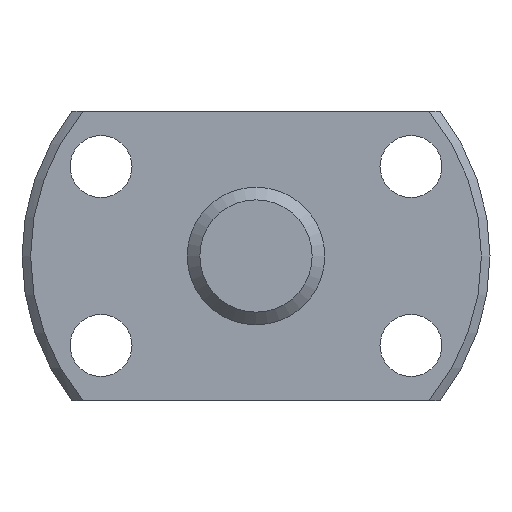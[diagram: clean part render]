
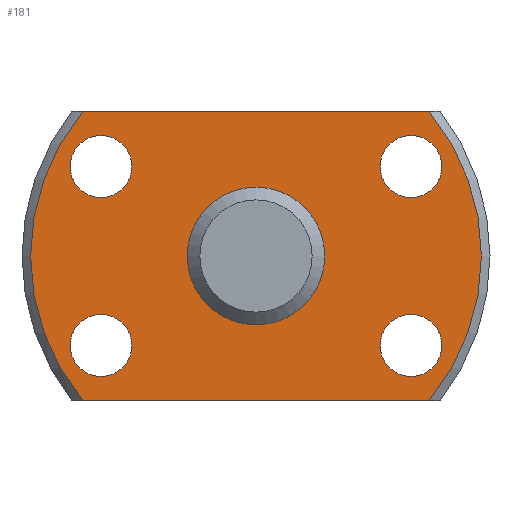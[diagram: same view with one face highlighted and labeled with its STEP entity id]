
A CAD part, left-side view. The second image highlights one B-rep face of the part: STEP entity #181.
In plain terms, the highlighted planar face has unit normal (-1, 0, 0).
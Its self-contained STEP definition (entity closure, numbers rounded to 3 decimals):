
#181 = ADVANCED_FACE( '', ( #229, #230, #231, #232, #233, #234 ), #235, .T. );
#229 = FACE_BOUND( '', #303, .T. );
#230 = FACE_OUTER_BOUND( '', #304, .T. );
#231 = FACE_BOUND( '', #305, .T. );
#232 = FACE_BOUND( '', #306, .T. );
#233 = FACE_BOUND( '', #307, .T. );
#234 = FACE_BOUND( '', #308, .T. );
#235 = PLANE( '', #309 );
#303 = EDGE_LOOP( '', ( #422 ) );
#304 = EDGE_LOOP( '', ( #423, #424, #425, #426 ) );
#305 = EDGE_LOOP( '', ( #427 ) );
#306 = EDGE_LOOP( '', ( #428 ) );
#307 = EDGE_LOOP( '', ( #429 ) );
#308 = EDGE_LOOP( '', ( #430 ) );
#309 = AXIS2_PLACEMENT_3D( '', #431, #432, #433 );
#422 = ORIENTED_EDGE( '', *, *, #534, .T. );
#423 = ORIENTED_EDGE( '', *, *, #535, .F. );
#424 = ORIENTED_EDGE( '', *, *, #536, .F. );
#425 = ORIENTED_EDGE( '', *, *, #511, .F. );
#426 = ORIENTED_EDGE( '', *, *, #532, .F. );
#427 = ORIENTED_EDGE( '', *, *, #537, .T. );
#428 = ORIENTED_EDGE( '', *, *, #538, .T. );
#429 = ORIENTED_EDGE( '', *, *, #539, .T. );
#430 = ORIENTED_EDGE( '', *, *, #540, .T. );
#431 = CARTESIAN_POINT( '', ( 0., 16.375, 0. ) );
#432 = DIRECTION( '', ( -1., 0., 0. ) );
#433 = DIRECTION( '', ( 0., 0., 1. ) );
#511 = EDGE_CURVE( '', #560, #562, #563, .T. );
#532 = EDGE_CURVE( '', #597, #560, #600, .T. );
#534 = EDGE_CURVE( '', #602, #602, #603, .T. );
#535 = EDGE_CURVE( '', #604, #597, #605, .T. );
#536 = EDGE_CURVE( '', #562, #604, #606, .T. );
#537 = EDGE_CURVE( '', #607, #607, #608, .T. );
#538 = EDGE_CURVE( '', #609, #609, #610, .T. );
#539 = EDGE_CURVE( '', #611, #611, #612, .T. );
#540 = EDGE_CURVE( '', #613, #613, #614, .T. );
#560 = VERTEX_POINT( '', #642 );
#562 = VERTEX_POINT( '', #647 );
#563 = LINE( '', #648, #649 );
#597 = VERTEX_POINT( '', #699 );
#600 = CIRCLE( '', #705, 16.375 );
#602 = VERTEX_POINT( '', #707 );
#603 = CIRCLE( '', #708, 5. );
#604 = VERTEX_POINT( '', #709 );
#605 = LINE( '', #710, #711 );
#606 = CIRCLE( '', #712, 16.375 );
#607 = VERTEX_POINT( '', #713 );
#608 = CIRCLE( '', #714, 2.25 );
#609 = VERTEX_POINT( '', #715 );
#610 = CIRCLE( '', #716, 2.25 );
#611 = VERTEX_POINT( '', #717 );
#612 = CIRCLE( '', #718, 2.25 );
#613 = VERTEX_POINT( '', #719 );
#614 = CIRCLE( '', #720, 2.25 );
#642 = CARTESIAN_POINT( '', ( 0., -12.565, -10.5 ) );
#647 = CARTESIAN_POINT( '', ( 0., 12.565, -10.5 ) );
#648 = CARTESIAN_POINT( '', ( 0., -17., -10.5 ) );
#649 = VECTOR( '', #748, 1000. );
#699 = CARTESIAN_POINT( '', ( 0., -12.565, 10.5 ) );
#705 = AXIS2_PLACEMENT_3D( '', #786, #787, #788 );
#707 = CARTESIAN_POINT( '', ( 0., 0., -5. ) );
#708 = AXIS2_PLACEMENT_3D( '', #792, #793, #794 );
#709 = CARTESIAN_POINT( '', ( 0., 12.565, 10.5 ) );
#710 = CARTESIAN_POINT( '', ( 0., 17., 10.5 ) );
#711 = VECTOR( '', #795, 1000. );
#712 = AXIS2_PLACEMENT_3D( '', #796, #797, #798 );
#713 = CARTESIAN_POINT( '', ( 0., 11.258, 4.25 ) );
#714 = AXIS2_PLACEMENT_3D( '', #799, #800, #801 );
#715 = CARTESIAN_POINT( '', ( 0., -11.258, 4.25 ) );
#716 = AXIS2_PLACEMENT_3D( '', #802, #803, #804 );
#717 = CARTESIAN_POINT( '', ( 0., -11.258, -8.75 ) );
#718 = AXIS2_PLACEMENT_3D( '', #805, #806, #807 );
#719 = CARTESIAN_POINT( '', ( 0., 11.258, -8.75 ) );
#720 = AXIS2_PLACEMENT_3D( '', #808, #809, #810 );
#748 = DIRECTION( '', ( 0., 1., 0. ) );
#786 = CARTESIAN_POINT( '', ( 0., 0., 0. ) );
#787 = DIRECTION( '', ( 1., 0., 0. ) );
#788 = DIRECTION( '', ( 0., 0., -1. ) );
#792 = CARTESIAN_POINT( '', ( 0., 0., 0. ) );
#793 = DIRECTION( '', ( 1., 0., 0. ) );
#794 = DIRECTION( '', ( 0., 0., -1. ) );
#795 = DIRECTION( '', ( 0., -1., 0. ) );
#796 = CARTESIAN_POINT( '', ( 0., 0., 0. ) );
#797 = DIRECTION( '', ( 1., 0., 0. ) );
#798 = DIRECTION( '', ( 0., 0., -1. ) );
#799 = CARTESIAN_POINT( '', ( 0., 11.258, 6.5 ) );
#800 = DIRECTION( '', ( 1., 0., 0. ) );
#801 = DIRECTION( '', ( 0., 0., -1. ) );
#802 = CARTESIAN_POINT( '', ( 0., -11.258, 6.5 ) );
#803 = DIRECTION( '', ( 1., 0., 0. ) );
#804 = DIRECTION( '', ( 0., 0., -1. ) );
#805 = CARTESIAN_POINT( '', ( 0., -11.258, -6.5 ) );
#806 = DIRECTION( '', ( 1., 0., 0. ) );
#807 = DIRECTION( '', ( 0., 0., -1. ) );
#808 = CARTESIAN_POINT( '', ( 0., 11.258, -6.5 ) );
#809 = DIRECTION( '', ( 1., 0., 0. ) );
#810 = DIRECTION( '', ( 0., 0., -1. ) );
